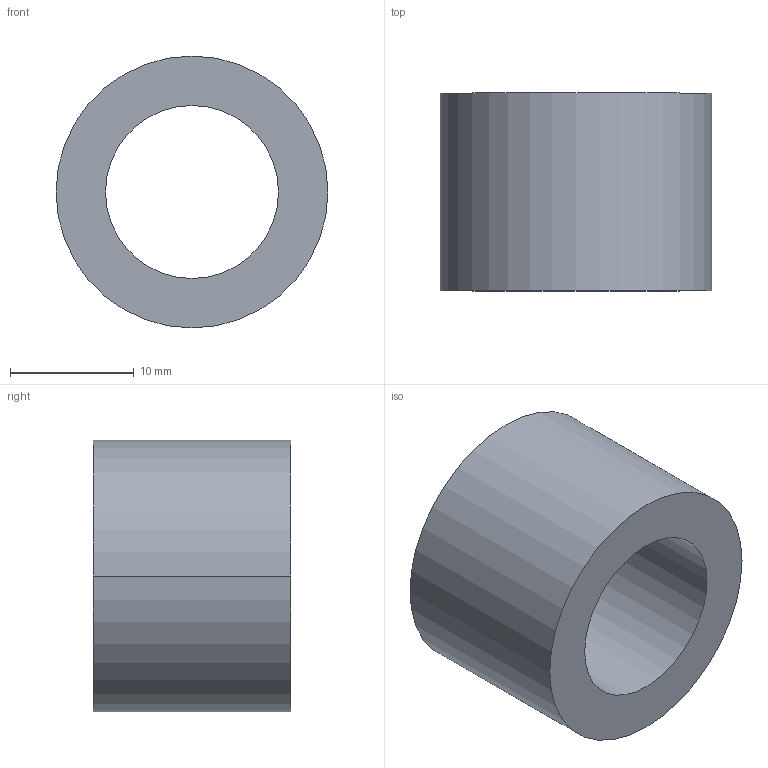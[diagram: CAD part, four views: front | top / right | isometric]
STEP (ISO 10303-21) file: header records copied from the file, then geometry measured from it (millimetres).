
FILE_DESCRIPTION (( 'STEP AP203' ), '1' );
FILE_NAME ('30800.WPP22F14.0.step', '2019-01-23T22:42:48', ( '' ), ( '' ), 'SwSTEP 2.0', 'SolidWorks 2017', '' );
FILE_SCHEMA (( 'CONFIG_CONTROL_DESIGN' ));
Length unit declared in the file: millimetre
Products named in the file (1): 30800.WPP22F14.0
Bounding box: 22 x 16 x 22 mm (x, y, z)
Volume: 3579 mm3; surface area: 2226 mm2
Topology: 1 solids, 1 shells, 8 faces, 16 edges, 10 vertices
Faces by surface type: cylinder 4, torus 2, plane 2
Entity records: 297 total; most frequent: DIRECTION 46, CARTESIAN_POINT 35, ORIENTED_EDGE 32, AXIS2_PLACEMENT_3D 21, EDGE_CURVE 16, CIRCLE 12, VERTEX_POINT 10, EDGE_LOOP 10
